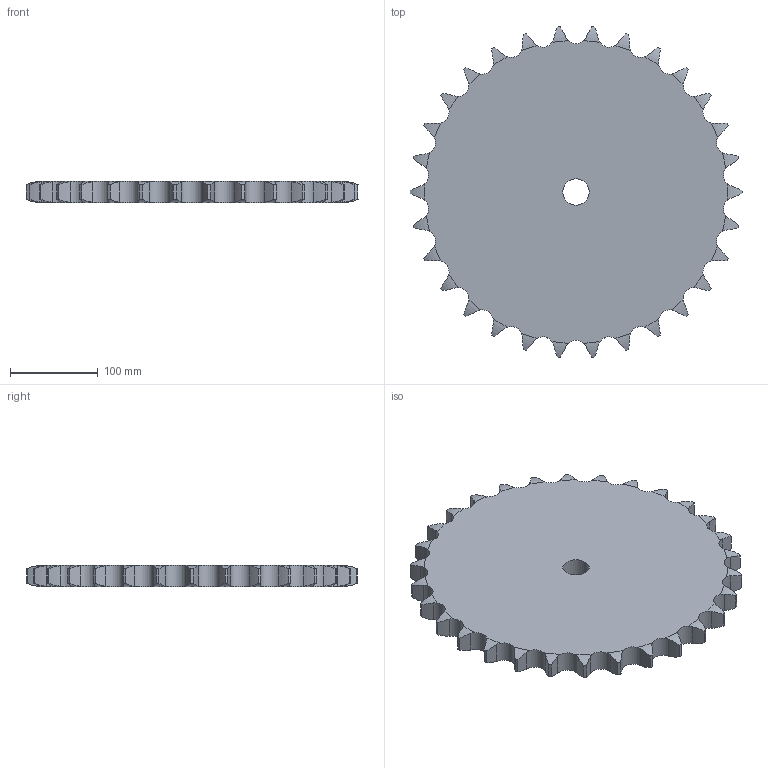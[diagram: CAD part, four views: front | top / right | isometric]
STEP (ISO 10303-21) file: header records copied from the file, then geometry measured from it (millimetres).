
FILE_DESCRIPTION((''),'2;1');
FILE_NAME('500-701-0030_PRT','2021-02-12T',('Brieden'),('Brieden'),'PRO/ENGINEER BY PARAMETRIC TECHNOLOGY CORPORATION, 2010160','PRO/ENGINEER BY PARAMETRIC TECHNOLOGY CORPORATION, 2010160','');
FILE_SCHEMA(('AUTOMOTIVE_DESIGN { 1 0 10303 214 1 1 1 1 }'));
Length unit declared in the file: millimetre
Products named in the file (1): 500-701-0030_PRT
Bounding box: 379.22 x 377.47 x 24.1 mm (x, y, z)
Volume: 2337598.3 mm3; surface area: 236811.2 mm2
Topology: 1 solids, 1 shells, 184 faces, 546 edges, 364 vertices
Faces by surface type: cylinder 122, torus 60, plane 2
Entity records: 9270 total; most frequent: CARTESIAN_POINT 2921, ORIENTED_EDGE 1092, DIRECTION 858, PRESENTATION_STYLE_ASSIGNMENT 547, STYLED_ITEM 547, CURVE_STYLE 546, EDGE_CURVE 546, AXIS2_PLACEMENT_3D 368
